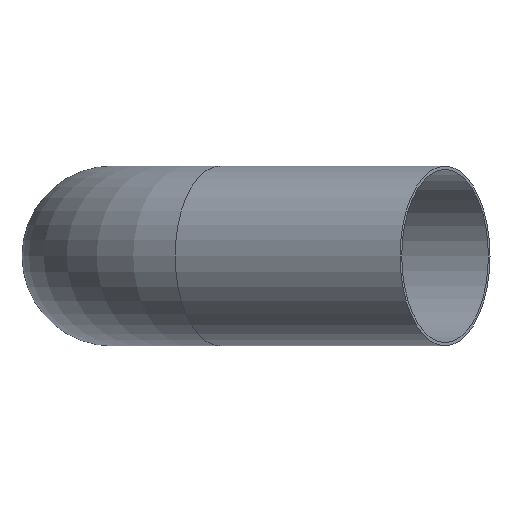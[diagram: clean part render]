
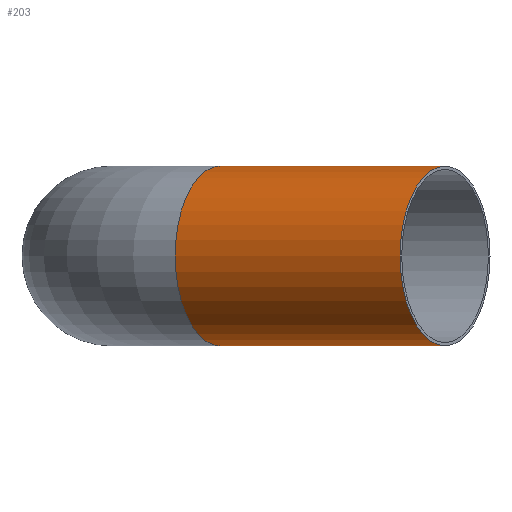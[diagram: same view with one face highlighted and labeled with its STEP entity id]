
A CAD part, left-side view. The second image highlights one B-rep face of the part: STEP entity #203.
In plain terms, the highlighted cylindrical face has radius 54 mm (diameter 108 mm), a full revolution.
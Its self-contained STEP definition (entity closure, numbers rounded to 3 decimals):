
#172=CARTESIAN_POINT('',(-159.349,92.,0.));
#173=VERTEX_POINT('',#172);
#174=CARTESIAN_POINT('',(-112.583,65.,0.0));
#175=DIRECTION('',(-0.5,-0.866,0.0));
#176=DIRECTION('',(0.866,-0.5,0.0));
#177=AXIS2_PLACEMENT_3D('',#174,#175,#176);
#178=CIRCLE('',#177,54.);
#179=EDGE_CURVE('',#173,#173,#178,.T.);
#184=CARTESIAN_POINT('',(-190.556,-70.052,0.0));
#185=DIRECTION('',(0.5,0.866,0.0));
#186=DIRECTION('',(0.866,-0.5,0.0));
#187=AXIS2_PLACEMENT_3D('',#184,#185,#186);
#188=CYLINDRICAL_SURFACE('',#187,54.);
#189=ORIENTED_EDGE('',*,*,#179,.T.);
#190=EDGE_LOOP('',(#189));
#191=FACE_OUTER_BOUND('',#190,.T.);
#192=CARTESIAN_POINT('',(-237.321,-43.052,0.));
#193=VERTEX_POINT('',#192);
#194=CARTESIAN_POINT('',(-190.556,-70.052,0.0));
#195=DIRECTION('',(-0.5,-0.866,0.0));
#196=DIRECTION('',(0.866,-0.5,0.0));
#197=AXIS2_PLACEMENT_3D('',#194,#195,#196);
#198=CIRCLE('',#197,54.);
#199=EDGE_CURVE('',#193,#193,#198,.T.);
#200=ORIENTED_EDGE('',*,*,#199,.F.);
#201=EDGE_LOOP('',(#200));
#202=FACE_BOUND('',#201,.T.);
#203=ADVANCED_FACE('',(#191,#202),#188,.T.);
